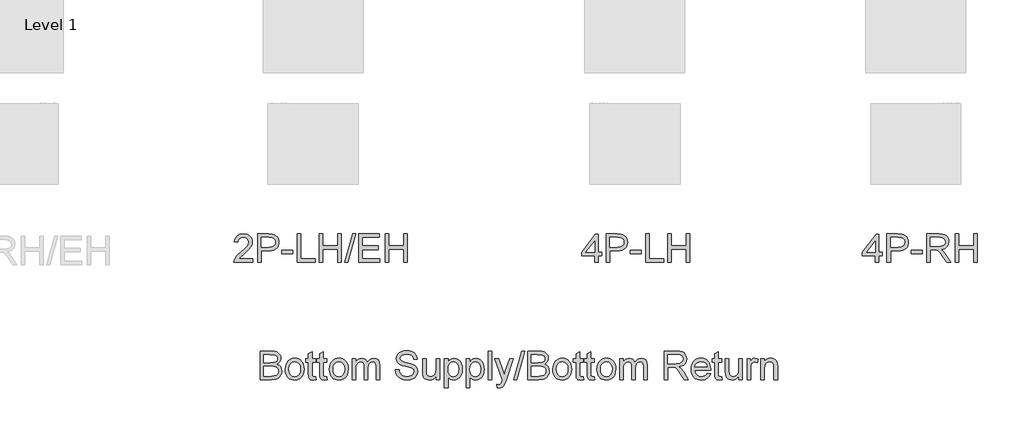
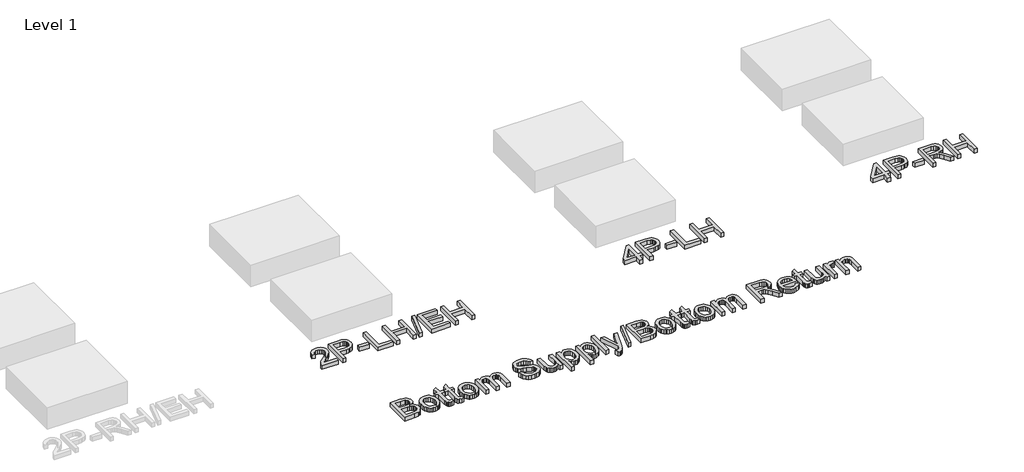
# One storey, part 3 of 3: 4 proxies.
"""IFC4 building model written with IfcOpenShell, lengths in millimetres."""

from ifc_helpers import new_model, si_unit, origin, origin_with_axes, place, context, project, spatial, polyline, outline, extrude, element, save

model = new_model("IFC4")

# Units and contexts
model_context = context("Model", 3, world=origin())
ifc_project = project(units=[si_unit("LENGTHUNIT", "METRE", prefix="MILLI")], contexts=[model_context])

# Site, building, storey
site = spatial("IfcSite", under=ifc_project)
building = spatial("IfcBuilding", under=site)
storey = spatial("IfcBuildingStorey", under=building, Name="Level 1", Elevation=0.0)

# Proxies
placement = place(None, origin())
element("IfcBuildingElementProxy", 1, Name="24\" Arial", ObjectType="24\" Arial", at=placement, inside=storey, context=model_context, shape_type="SweptSolid", body=[
    extrude(outline(polyline([(5067.5422852, -4575.3069819), (5067.5422852, -4613.3778686), (4867.6701297, -4613.3778686), (4871.7597758, -4587.1297768), (4881.1473723, -4566.616484), (4894.8848652, -4546.7166382), (4914.7568271, -4525.8873273), (4942.5478308, -4502.5856396), (4983.6301842, -4466.0948433), (5008.2795962, -4439.1589474), (5020.6043023, -4417.2979304), (5024.7125376, -4396.031771), (5020.8366685, -4376.9684436), (5009.2090613, -4361.1210652), (4991.3354491, -4350.4415123), (4968.7215655, -4346.8816613), (4944.9737345, -4350.3578604), (4926.5238541, -4360.7864578), (4914.6174073, -4377.3495243), (4910.4998773, -4399.2291306), (4872.4289906, -4394.4702698), (4875.7030311, -4374.8167321), (4881.6585781, -4357.6448661), (4890.2956317, -4342.9546716), (4901.6141918, -4330.7461488), (4915.3540083, -4321.1494225), (4931.254831, -4314.2946181), (4969.5394947, -4308.8107745), (4989.9435753, -4310.3350972), (5008.1029979, -4314.908065), (5024.0177625, -4322.5296781), (5037.6878691, -4333.1999364), (5048.6671745, -4346.1287946), (5056.5095355, -4360.5262076), (5061.2149522, -4376.3921753), (5062.7834244, -4393.7266977), (5061.091798, -4411.9349173), (5056.0169191, -4429.8271187), (5047.0104032, -4448.0260436), (5033.5238659, -4467.1544334), (5012.0253402, -4489.9913887), (4978.9828592, -4519.3160097), (4935.186468, -4555.9369311), (4918.0099546, -4575.3069819), (5067.5422852, -4575.3069819)])), origin_with_axes(), (0.0, 0.0, 1.0), 50.8),
    extrude(outline(polyline([(5119.8897545, -4613.3778686), (5119.8897545, -4308.8107745), (5232.7639852, -4308.8107745), (5278.270592, -4311.7107054), (5298.5608131, -4317.1294864), (5315.2632993, -4325.9501093), (5328.712658, -4338.5722441), (5339.2434966, -4355.3955608), (5346.0471804, -4375.2396387), (5348.315075, -4396.9240574), (5346.7837814, -4415.620246), (5342.1899006, -4432.819996), (5334.5334326, -4448.5233073), (5323.8143774, -4462.73018), (5309.0986227, -4474.5065017), (5289.452056, -4482.91816), (5264.8746775, -4487.965155), (5235.3664872, -4489.6474866), (5157.9606413, -4489.6474866), (5157.9606413, -4613.3778686), (5119.8897545, -4613.3778686)]), holes=[polyline([(5157.9606413, -4451.5765999), (5237.5972032, -4451.5765999), (5271.3553723, -4448.0818115), (5293.6625325, -4437.5974462), (5306.0987743, -4420.7741295), (5310.2441883, -4398.262487), (5307.7996953, -4381.1603308), (5300.4662164, -4366.7350339), (5289.1546272, -4355.8788826), (5274.7758036, -4349.4841633), (5236.7049168, -4346.8816613), (5157.9606413, -4346.8816613), (5157.9606413, -4451.5765999)])]), origin_with_axes(), (0.0, 0.0, 1.0), 50.8),
    extrude(outline(polyline([(5376.8682401, -4522.9595126), (5376.8682401, -4484.8886258), (5495.8397612, -4484.8886258), (5495.8397612, -4522.9595126), (5376.8682401, -4522.9595126)])), origin_with_axes(), (0.0, 0.0, 1.0), 50.8),
    extrude(outline(polyline([(5543.4283697, -4613.3778686), (5543.4283697, -4308.8107745), (5581.4992564, -4308.8107745), (5581.4992564, -4575.3069819), (5733.7828035, -4575.3069819), (5733.7828035, -4613.3778686), (5543.4283697, -4613.3778686)])), origin_with_axes(), (0.0, 0.0, 1.0), 50.8),
    extrude(outline(polyline([(5776.6125511, -4613.3778686), (5776.6125511, -4308.8107745), (5814.6834378, -4308.8107745), (5814.6834378, -4432.5411565), (5976.4847066, -4432.5411565), (5976.4847066, -4308.8107745), (6014.5555933, -4308.8107745), (6014.5555933, -4613.3778686), (5976.4847066, -4613.3778686), (5976.4847066, -4470.6120433), (5814.6834378, -4470.6120433), (5814.6834378, -4613.3778686), (5776.6125511, -4613.3778686)])), origin_with_axes(), (0.0, 0.0, 1.0), 50.8),
    extrude(outline(polyline([(6047.8676192, -4613.3778686), (6133.5271144, -4308.8107745), (6167.8801412, -4308.8107745), (6082.220646, -4613.3778686), (6047.8676192, -4613.3778686)])), origin_with_axes(), (0.0, 0.0, 1.0), 50.8),
    extrude(outline(polyline([(6200.1511663, -4613.3778686), (6200.1511663, -4308.8107745), (6419.0587651, -4308.8107745), (6419.0587651, -4346.8816613), (6238.222053, -4346.8816613), (6238.222053, -4437.3000174), (6409.5410434, -4437.3000174), (6409.5410434, -4475.3709041), (6238.222053, -4475.3709041), (6238.222053, -4575.3069819), (6423.817626, -4575.3069819), (6423.817626, -4613.3778686), (6200.1511663, -4613.3778686)])), origin_with_axes(), (0.0, 0.0, 1.0), 50.8),
    extrude(outline(polyline([(6480.9239561, -4613.3778686), (6480.9239561, -4308.8107745), (6518.9948429, -4308.8107745), (6518.9948429, -4432.5411565), (6680.7961116, -4432.5411565), (6680.7961116, -4308.8107745), (6718.8669984, -4308.8107745), (6718.8669984, -4613.3778686), (6680.7961116, -4613.3778686), (6680.7961116, -4470.6120433), (6518.9948429, -4470.6120433), (6518.9948429, -4613.3778686), (6480.9239561, -4613.3778686)])), origin_with_axes(), (0.0, 0.0, 1.0), 50.8),
])
element("IfcBuildingElementProxy", 2, Name="24\" Arial", ObjectType="24\" Arial", at=placement, inside=storey, context=model_context, shape_type="SweptSolid", body=[
    extrude(outline(polyline([(8716.6122383, -4613.3778686), (8716.6122383, -4541.9949559), (8578.6052738, -4541.9949559), (8578.6052738, -4503.9240692), (8726.12996, -4313.5696354), (8754.6831251, -4313.5696354), (8754.6831251, -4503.9240692), (8792.7540119, -4503.9240692), (8792.7540119, -4541.9949559), (8754.6831251, -4541.9949559), (8754.6831251, -4613.3778686), (8716.6122383, -4613.3778686)]), holes=[polyline([(8716.6122383, -4503.9240692), (8716.6122383, -4386.2909777), (8625.4503103, -4503.9240692), (8716.6122383, -4503.9240692)])]), origin_with_axes(), (0.0, 0.0, 1.0), 50.8),
    extrude(outline(polyline([(8840.3426203, -4613.3778686), (8840.3426203, -4308.8107745), (8953.216851, -4308.8107745), (8998.7234578, -4311.7107054), (9019.0136789, -4317.1294864), (9035.7161651, -4325.9501093), (9049.1655238, -4338.5722441), (9059.6963624, -4355.3955608), (9066.5000462, -4375.2396387), (9068.7679409, -4396.9240574), (9067.2366473, -4415.620246), (9062.6427664, -4432.819996), (9054.9862984, -4448.5233073), (9044.2672432, -4462.73018), (9029.5514885, -4474.5065017), (9009.9049219, -4482.91816), (8985.3275434, -4487.965155), (8955.819353, -4489.6474866), (8878.4135071, -4489.6474866), (8878.4135071, -4613.3778686), (8840.3426203, -4613.3778686)]), holes=[polyline([(8878.4135071, -4451.5765999), (8958.050069, -4451.5765999), (8991.8082381, -4448.0818115), (9014.1153983, -4437.5974462), (9026.5516402, -4420.7741295), (9030.6970541, -4398.262487), (9028.2525611, -4381.1603308), (9020.9190822, -4366.7350339), (9009.6074931, -4355.8788826), (8995.2286694, -4349.4841633), (8957.1577826, -4346.8816613), (8878.4135071, -4346.8816613), (8878.4135071, -4451.5765999)])]), origin_with_axes(), (0.0, 0.0, 1.0), 50.8),
    extrude(outline(polyline([(9097.3211059, -4522.9595126), (9097.3211059, -4484.8886258), (9216.292627, -4484.8886258), (9216.292627, -4522.9595126), (9097.3211059, -4522.9595126)])), origin_with_axes(), (0.0, 0.0, 1.0), 50.8),
    extrude(outline(polyline([(9263.8812355, -4613.3778686), (9263.8812355, -4308.8107745), (9301.9521223, -4308.8107745), (9301.9521223, -4575.3069819), (9454.2356693, -4575.3069819), (9454.2356693, -4613.3778686), (9263.8812355, -4613.3778686)])), origin_with_axes(), (0.0, 0.0, 1.0), 50.8),
    extrude(outline(polyline([(9497.0654169, -4613.3778686), (9497.0654169, -4308.8107745), (9535.1363036, -4308.8107745), (9535.1363036, -4432.5411565), (9696.9375724, -4432.5411565), (9696.9375724, -4308.8107745), (9735.0084591, -4308.8107745), (9735.0084591, -4613.3778686), (9696.9375724, -4613.3778686), (9696.9375724, -4470.6120433), (9535.1363036, -4470.6120433), (9535.1363036, -4613.3778686), (9497.0654169, -4613.3778686)])), origin_with_axes(), (0.0, 0.0, 1.0), 50.8),
])
element("IfcBuildingElementProxy", 3, Name="24\" Arial", ObjectType="24\" Arial", at=placement, inside=storey, context=model_context, shape_type="SweptSolid", body=[
    extrude(outline(polyline([(11713.8122383, -4613.3778686), (11713.8122383, -4541.9949559), (11575.8052738, -4541.9949559), (11575.8052738, -4503.9240692), (11723.32996, -4313.5696354), (11751.8831251, -4313.5696354), (11751.8831251, -4503.9240692), (11789.9540119, -4503.9240692), (11789.9540119, -4541.9949559), (11751.8831251, -4541.9949559), (11751.8831251, -4613.3778686), (11713.8122383, -4613.3778686)]), holes=[polyline([(11713.8122383, -4503.9240692), (11713.8122383, -4386.2909777), (11622.6503103, -4503.9240692), (11713.8122383, -4503.9240692)])]), origin_with_axes(), (0.0, 0.0, 1.0), 50.8),
    extrude(outline(polyline([(11837.5426203, -4613.3778686), (11837.5426203, -4308.8107745), (11950.416851, -4308.8107745), (11995.9234578, -4311.7107054), (12016.2136789, -4317.1294864), (12032.9161651, -4325.9501093), (12046.3655238, -4338.5722441), (12056.8963624, -4355.3955608), (12063.7000462, -4375.2396387), (12065.9679409, -4396.9240574), (12064.4366473, -4415.620246), (12059.8427664, -4432.819996), (12052.1862984, -4448.5233073), (12041.4672432, -4462.73018), (12026.7514885, -4474.5065017), (12007.1049219, -4482.91816), (11982.5275434, -4487.965155), (11953.019353, -4489.6474866), (11875.6135071, -4489.6474866), (11875.6135071, -4613.3778686), (11837.5426203, -4613.3778686)]), holes=[polyline([(11875.6135071, -4451.5765999), (11955.250069, -4451.5765999), (11989.0082381, -4448.0818115), (12011.3153983, -4437.5974462), (12023.7516402, -4420.7741295), (12027.8970541, -4398.262487), (12025.4525611, -4381.1603308), (12018.1190822, -4366.7350339), (12006.8074931, -4355.8788826), (11992.4286694, -4349.4841633), (11954.3577826, -4346.8816613), (11875.6135071, -4346.8816613), (11875.6135071, -4451.5765999)])]), origin_with_axes(), (0.0, 0.0, 1.0), 50.8),
    extrude(outline(polyline([(12094.5211059, -4522.9595126), (12094.5211059, -4484.8886258), (12213.492627, -4484.8886258), (12213.492627, -4522.9595126), (12094.5211059, -4522.9595126)])), origin_with_axes(), (0.0, 0.0, 1.0), 50.8),
    extrude(outline(polyline([(12261.0812355, -4613.3778686), (12261.0812355, -4308.8107745), (12392.3216947, -4308.8107745), (12427.5948918, -4310.8648922), (12453.2574207, -4317.0272452), (12472.0140246, -4328.4038969), (12486.5694466, -4346.1009107), (12495.91057, -4368.0455796), (12499.0242777, -4392.1651965), (12493.8657469, -4422.168327), (12478.3901545, -4447.0408106), (12466.6672771, -4457.1766266), (12452.132768, -4465.2769141), (12414.6288549, -4475.3709041), (12436.2668003, -4491.6551311), (12467.1250386, -4530.8413758), (12517.9110067, -4613.3778686), (12473.6684723, -4613.3778686), (12434.0360843, -4550.2486052), (12405.4085621, -4508.4598584), (12385.2949393, -4488.7180216), (12367.1889609, -4481.4681946), (12345.1048723, -4480.129765), (12299.1521223, -4480.129765), (12299.1521223, -4613.3778686), (12261.0812355, -4613.3778686)]), holes=[polyline([(12299.1521223, -4442.0588782), (12384.3654743, -4442.0588782), (12408.8382879, -4440.7111539), (12427.8272581, -4436.6679811), (12442.1224299, -4429.659815), (12452.5138487, -4419.4171106), (12458.8435054, -4407.027342), (12460.953391, -4393.5779833), (12456.9288075, -4375.0072725), (12444.855057, -4360.0428858), (12424.0815141, -4350.1719674), (12393.9575531, -4346.8816613), (12299.1521223, -4346.8816613), (12299.1521223, -4442.0588782)])]), origin_with_axes(), (0.0, 0.0, 1.0), 50.8),
    extrude(outline(polyline([(12565.6483296, -4613.3778686), (12565.6483296, -4308.8107745), (12603.7192163, -4308.8107745), (12603.7192163, -4432.5411565), (12765.520485, -4432.5411565), (12765.520485, -4308.8107745), (12803.5913718, -4308.8107745), (12803.5913718, -4613.3778686), (12765.520485, -4613.3778686), (12765.520485, -4470.6120433), (12603.7192163, -4470.6120433), (12603.7192163, -4613.3778686), (12565.6483296, -4613.3778686)])), origin_with_axes(), (0.0, 0.0, 1.0), 50.8),
])
element("IfcBuildingElementProxy", 4, Name="24\" Arial", ObjectType="24\" Arial", at=placement, inside=storey, context=model_context, shape_type="SweptSolid", body=[
    extrude(outline(polyline([(5149.6024205, -5864.2569416), (5149.6024205, -5559.6898476), (5265.8227252, -5559.6898476), (5297.7870269, -5561.9298582), (5322.7431624, -5568.6498903), (5341.8715523, -5580.0172473), (5356.3526171, -5596.1992331), (5365.4706688, -5615.2346765), (5368.5100194, -5635.1624063), (5365.9539906, -5653.5007509), (5358.2859043, -5670.7423268), (5345.4499925, -5685.8275439), (5327.3904874, -5697.6968121), (5348.9633703, -5708.961928), (5364.9036952, -5726.1012627), (5374.7467296, -5747.980869), (5378.0277411, -5773.4667996), (5375.7877304, -5794.705075), (5369.0676984, -5814.4004386), (5359.038771, -5831.149398), (5346.872074, -5843.5484612), (5331.9727499, -5852.5270932), (5313.7459411, -5859.014759), (5264.9304388, -5864.2569416), (5149.6024205, -5864.2569416)]), holes=[polyline([(5187.6733073, -5683.4202295), (5257.19729, -5683.4202295), (5297.7963215, -5680.1485127), (5312.0078415, -5674.5066601), (5322.222662, -5666.0578232), (5328.385015, -5654.932127), (5330.4391327, -5641.2596967), (5328.5244347, -5627.9869364), (5322.780341, -5616.4243917), (5313.4671016, -5607.3992865), (5300.8449668, -5601.7388446), (5251.9179287, -5597.7607343), (5187.6733073, -5597.7607343), (5187.6733073, -5683.4202295)]), polyline([(5187.6733073, -5826.1860549), (5265.748368, -5826.1860549), (5294.0041043, -5824.6989109), (5317.9099443, -5816.408083), (5333.7480281, -5799.4918198), (5338.4046478, -5787.5388998), (5339.9568543, -5773.8385856), (5338.1351029, -5757.9261446), (5332.6698487, -5744.2444197), (5323.124243, -5733.5462775), (5309.0614375, -5726.5845845), (5289.1430023, -5722.7644834), (5262.030508, -5721.4911163), (5187.6733073, -5721.4911163), (5187.6733073, -5826.1860549)])]), origin_with_axes(), (0.0, 0.0, 1.0), 50.8),
    extrude(outline(polyline([(5416.0986279, -5752.4237118), (5418.1573929, -5723.4569348), (5424.3336878, -5698.496152), (5434.6275128, -5677.5413634), (5449.0388678, -5660.5925689), (5463.5478166, -5649.7596542), (5479.5624987, -5642.0218581), (5497.0829141, -5637.3791803), (5516.1090628, -5635.8316211), (5537.1126483, -5637.7161114), (5556.1039421, -5643.3695823), (5573.0829442, -5652.7920338), (5588.0496545, -5665.983466), (5600.2651484, -5682.4977355), (5608.9905011, -5701.8886993), (5614.2257128, -5724.1563572), (5615.9707833, -5749.3007094), (5612.8849595, -5787.7619714), (5603.627488, -5817.0401192), (5588.4679137, -5838.9661988), (5567.6757815, -5855.3712562), (5542.9798962, -5865.6046659), (5516.1090628, -5869.0158025), (5494.7987538, -5867.1382832), (5475.6308617, -5861.5057252), (5458.6053864, -5852.1181286), (5443.7223279, -5838.9754934), (5431.6369591, -5822.3008911), (5423.0045529, -5802.3173935), (5417.8251091, -5779.0250003), (5416.0986279, -5752.4237118)]), holes=[polyline([(5454.1695146, -5752.3493546), (5458.5751788, -5786.8046225), (5471.7921712, -5811.3517933), (5491.6827224, -5826.0466351), (5516.1090628, -5830.9449157), (5540.4238674, -5826.0187512), (5560.27724, -5811.2402575), (5573.4942324, -5786.3677739), (5577.8998966, -5751.1596394), (5573.4663485, -5717.7081937), (5560.1657042, -5693.4956302), (5540.2844477, -5678.8007884), (5516.1090628, -5673.9025079), (5491.6827224, -5678.7821991), (5471.7921712, -5693.421273), (5458.5751788, -5717.912676), (5454.1695146, -5752.3493546)])]), origin_with_axes(), (0.0, 0.0, 1.0), 50.8),
    extrude(outline(polyline([(5739.7011653, -5832.5064169), (5744.4600262, -5865.3722997), (5715.9812183, -5869.0158025), (5697.7079362, -5867.435712), (5684.0819792, -5862.6954404), (5674.4527217, -5855.3898455), (5668.1695382, -5846.1137847), (5664.7119284, -5830.1827544), (5663.5593918, -5802.9122511), (5663.5593918, -5678.6613687), (5635.0062267, -5678.6613687), (5635.0062267, -5640.5904819), (5663.5593918, -5640.5904819), (5663.5593918, -5586.2353682), (5701.6302785, -5563.8538508), (5701.6302785, -5640.5904819), (5739.7011653, -5640.5904819), (5739.7011653, -5678.6613687), (5701.6302785, -5678.6613687), (5701.6302785, -5801.7968931), (5703.637923, -5821.427194), (5710.144178, -5828.3795923), (5723.1195096, -5830.9449157), (5739.7011653, -5832.5064169)])), origin_with_axes(), (0.0, 0.0, 1.0), 50.8),
    extrude(outline(polyline([(5858.6726864, -5832.5064169), (5863.4315473, -5865.3722997), (5834.9527394, -5869.0158025), (5816.6794573, -5867.435712), (5803.0535003, -5862.6954404), (5793.4242428, -5855.3898455), (5787.1410594, -5846.1137847), (5783.6834495, -5830.1827544), (5782.5309129, -5802.9122511), (5782.5309129, -5678.6613687), (5753.9777478, -5678.6613687), (5753.9777478, -5640.5904819), (5782.5309129, -5640.5904819), (5782.5309129, -5586.2353682), (5820.6017997, -5563.8538508), (5820.6017997, -5640.5904819), (5858.6726864, -5640.5904819), (5858.6726864, -5678.6613687), (5820.6017997, -5678.6613687), (5820.6017997, -5801.7968931), (5822.6094441, -5821.427194), (5829.1156991, -5828.3795923), (5842.0910307, -5830.9449157), (5858.6726864, -5832.5064169)])), origin_with_axes(), (0.0, 0.0, 1.0), 50.8),
    extrude(outline(polyline([(5887.2258515, -5752.4237118), (5889.2846165, -5723.4569348), (5895.4609115, -5698.496152), (5905.7547364, -5677.5413634), (5920.1660914, -5660.5925689), (5934.6750402, -5649.7596542), (5950.6897223, -5642.0218581), (5968.2101377, -5637.3791803), (5987.2362864, -5635.8316211), (6008.239872, -5637.7161114), (6027.2311658, -5643.3695823), (6044.2101678, -5652.7920338), (6059.1768781, -5665.983466), (6071.392372, -5682.4977355), (6080.1177248, -5701.8886993), (6085.3529364, -5724.1563572), (6087.098007, -5749.3007094), (6084.0121831, -5787.7619714), (6074.7547117, -5817.0401192), (6059.5951374, -5838.9661988), (6038.8030051, -5855.3712562), (6014.1071198, -5865.6046659), (5987.2362864, -5869.0158025), (5965.9259775, -5867.1382832), (5946.7580853, -5861.5057252), (5929.73261, -5852.1181286), (5914.8495516, -5838.9754934), (5902.7641828, -5822.3008911), (5894.1317765, -5802.3173935), (5888.9523328, -5779.0250003), (5887.2258515, -5752.4237118)]), holes=[polyline([(5925.2967383, -5752.3493546), (5929.7024024, -5786.8046225), (5942.9193948, -5811.3517933), (5962.809946, -5826.0466351), (5987.2362864, -5830.9449157), (6011.5510911, -5826.0187512), (6031.4044637, -5811.2402575), (6044.6214561, -5786.3677739), (6049.0271202, -5751.1596394), (6044.5935721, -5717.7081937), (6031.2929279, -5693.4956302), (6011.4116713, -5678.8007884), (5987.2362864, -5673.9025079), (5962.809946, -5678.7821991), (5942.9193948, -5693.421273), (5929.7024024, -5717.912676), (5925.2967383, -5752.3493546)])]), origin_with_axes(), (0.0, 0.0, 1.0), 50.8),
    extrude(outline(polyline([(6129.9277546, -5864.2569416), (6129.9277546, -5640.5904819), (6167.9986413, -5640.5904819), (6167.9986413, -5677.3972963), (6179.4496502, -5660.4903278), (6194.172376, -5647.2454514), (6211.6649075, -5638.6850787), (6231.4253335, -5635.8316211), (6252.5985464, -5638.7408466), (6269.5705775, -5647.468523), (6282.2484802, -5661.4383821), (6290.5393081, -5680.0741555), (6304.4162207, -5660.7180467), (6320.2450098, -5646.8922547), (6338.0256754, -5638.5967795), (6357.7582175, -5635.8316211), (6386.3764451, -5640.4324729), (6407.5403634, -5654.2350283), (6420.6179361, -5677.6110732), (6424.977127, -5710.9323938), (6424.977127, -5864.2569416), (6386.9062402, -5864.2569416), (6386.9062402, -5727.290978), (6383.3742732, -5695.5032747), (6378.41093, -5686.7384196), (6370.5848346, -5679.8510839), (6360.5187286, -5675.3896519), (6348.8353534, -5673.9025079), (6328.2105249, -5677.7133144), (6311.3965029, -5689.145734), (6300.2150388, -5708.9805173), (6296.4878842, -5737.9984149), (6296.4878842, -5864.2569416), (6258.4169974, -5864.2569416), (6258.4169974, -5723.0526175), (6256.2141653, -5701.5262079), (6249.6056691, -5686.171446), (6237.9780618, -5676.9697424), (6220.7178966, -5673.9025079), (6206.0509388, -5675.9473309), (6192.5365176, -5682.0817999), (6181.3829375, -5692.1572006), (6173.798503, -5706.0248186), (6169.4486068, -5725.2647442), (6167.9986413, -5751.4570682), (6167.9986413, -5864.2569416), (6129.9277546, -5864.2569416)])), origin_with_axes(), (0.0, 0.0, 1.0), 50.8),
    extrude(outline(polyline([(6591.5372565, -5759.5620031), (6629.6081433, -5759.5620031), (6633.9766288, -5780.6887427), (6641.8770814, -5797.6700684), (6654.2017874, -5811.147311), (6671.8430333, -5821.7618014), (6693.4066215, -5828.6491372), (6717.4983545, -5830.9449157), (6738.708746, -5829.2068162), (6757.2794569, -5823.9925175), (6772.3274954, -5815.7388682), (6782.9698697, -5804.8827169), (6789.2995264, -5792.4185911), (6791.409412, -5779.3410184), (6789.8293215, -5766.5980532), (6785.08905, -5755.5838928), (6775.4597925, -5746.1870016), (6759.2127441, -5738.2958437), (6703.779451, -5723.7590109), (6667.3908959, -5714.1390481), (6644.1077974, -5704.9838177), (6625.1560059, -5692.1757899), (6611.7252365, -5676.6537243), (6603.7225428, -5658.7522282), (6601.0549782, -5638.8059091), (6604.354579, -5616.5080436), (6614.2533813, -5595.7159113), (6630.491135, -5578.0932547), (6652.8075899, -5565.3038162), (6679.5947715, -5557.5241941), (6709.2447052, -5554.9309867), (6741.3670159, -5557.6450246), (6769.4740378, -5565.787138), (6792.5619486, -5579.1900235), (6809.6269262, -5597.6863771), (6820.4273096, -5620.1236624), (6824.7214379, -5645.3493428), (6786.6505512, -5645.3493428), (6779.6609743, -5622.633218), (6765.086963, -5606.2374552), (6742.3150702, -5596.3107689), (6710.7318493, -5593.0018735), (6678.4050562, -5596.2735903), (6656.2280211, -5606.0887408), (6643.401404, -5620.532627), (6639.125865, -5637.6905511), (6642.1559209, -5652.3203303), (6651.2460887, -5664.0873574), (6672.7353197, -5674.6089013), (6713.4087085, -5685.3535168), (6755.3833483, -5695.5590426), (6780.7763323, -5704.4633173), (6802.4793403, -5718.2751674), (6817.6203253, -5735.3215556), (6826.5153054, -5755.4165891), (6829.4802988, -5778.3743748), (6826.0691622, -5801.8433663), (6815.8357524, -5823.9181603), (6799.1983288, -5842.916425), (6776.5751505, -5857.155829), (6749.3697097, -5866.0508091), (6718.9854985, -5869.0158025), (6681.6860677, -5865.8184429), (6650.9858385, -5856.226364), (6626.5316141, -5840.2023872), (6607.9701979, -5817.709334), (6596.0544565, -5790.3087055), (6591.5372565, -5759.5620031)])), origin_with_axes(), (0.0, 0.0, 1.0), 50.8),
    extrude(outline(polyline([(7024.5935934, -5864.2569416), (7024.5935934, -5825.8142689), (7010.818922, -5844.7149398), (6994.7763559, -5858.2154191), (6976.4658953, -5866.3157066), (6955.88754, -5869.0158025), (6937.344713, -5867.1196939), (6920.0845478, -5861.431368), (6905.603483, -5852.8802899), (6895.3979572, -5842.3959246), (6888.5292108, -5829.662254), (6884.0584841, -5814.36326), (6881.8277681, -5778.9692324), (6881.8277681, -5640.5904819), (6919.8986548, -5640.5904819), (6919.8986548, -5761.0491471), (6922.203728, -5799.8636058), (6927.7526341, -5812.8110534), (6937.2610612, -5822.6540879), (6950.096973, -5828.8722088), (6965.6283333, -5830.9449157), (6982.05198, -5828.8257355), (6997.4160366, -5822.4681949), (7010.0846446, -5812.4578567), (7018.4219457, -5799.380284), (7023.0506815, -5781.4694933), (7024.5935934, -5756.959501), (7024.5935934, -5640.5904819), (7062.6644802, -5640.5904819), (7062.6644802, -5864.2569416), (7024.5935934, -5864.2569416)])), origin_with_axes(), (0.0, 0.0, 1.0), 50.8),
    extrude(outline(polyline([(7115.0119495, -5949.9164369), (7115.0119495, -5640.5904819), (7153.0828362, -5640.5904819), (7153.0828362, -5677.9177967), (7165.5004887, -5659.5050949), (7179.4052853, -5646.353165), (7195.615155, -5638.4620071), (7214.9480272, -5635.8316211), (7240.6942079, -5639.5123025), (7263.2058505, -5650.5543468), (7281.5349004, -5668.2885392), (7294.7333036, -5692.0456648), (7302.7081133, -5720.0969188), (7305.3663833, -5750.7134962), (7302.3642113, -5783.2726554), (7293.3576953, -5812.3927942), (7278.6349696, -5836.596063), (7258.4841682, -5854.4046126), (7235.0151767, -5865.363005), (7210.3378808, -5869.0158025), (7192.8360546, -5866.5713095), (7177.2117478, -5859.2378306), (7163.8367464, -5848.1679023), (7153.0828362, -5834.5140614), (7153.0828362, -5949.9164369), (7115.0119495, -5949.9164369)]), holes=[polyline([(7153.0828362, -5754.2082846), (7157.2003662, -5788.3382397), (7169.5529562, -5812.2069012), (7187.779765, -5826.2604121), (7209.5199515, -5830.9449157), (7231.6133348, -5826.0931084), (7250.3048761, -5811.5376863), (7263.0478414, -5786.7953278), (7267.2954965, -5751.382711), (7263.1500826, -5717.4386489), (7250.7138407, -5693.23538), (7232.5149159, -5678.7357259), (7211.0814528, -5673.9025079), (7189.5643378, -5679.0424494), (7170.6683142, -5694.4622738), (7157.4792057, -5719.6786595), (7153.0828362, -5754.2082846)])]), origin_with_axes(), (0.0, 0.0, 1.0), 50.8),
    extrude(outline(polyline([(7348.1961309, -5949.9164369), (7348.1961309, -5640.5904819), (7386.2670176, -5640.5904819), (7386.2670176, -5677.9177967), (7398.6846701, -5659.5050949), (7412.5894667, -5646.353165), (7428.7993364, -5638.4620071), (7448.1322086, -5635.8316211), (7473.8783893, -5639.5123025), (7496.3900319, -5650.5543468), (7514.7190818, -5668.2885392), (7527.9174849, -5692.0456648), (7535.8922947, -5720.0969188), (7538.5505646, -5750.7134962), (7535.5483927, -5783.2726554), (7526.5418767, -5812.3927942), (7511.819151, -5836.596063), (7491.6683496, -5854.4046126), (7468.1993581, -5865.363005), (7443.5220622, -5869.0158025), (7426.020236, -5866.5713095), (7410.3959292, -5859.2378306), (7397.0209278, -5848.1679023), (7386.2670176, -5834.5140614), (7386.2670176, -5949.9164369), (7348.1961309, -5949.9164369)]), holes=[polyline([(7386.2670176, -5754.2082846), (7390.3845476, -5788.3382397), (7402.7371376, -5812.2069012), (7420.9639464, -5826.2604121), (7442.7041329, -5830.9449157), (7464.7975162, -5826.0931084), (7483.4890575, -5811.5376863), (7496.2320228, -5786.7953278), (7500.4796779, -5751.382711), (7496.334264, -5717.4386489), (7483.8980221, -5693.23538), (7465.6990973, -5678.7357259), (7444.2656342, -5673.9025079), (7422.7485192, -5679.0424494), (7403.8524956, -5694.4622738), (7390.6633871, -5719.6786595), (7386.2670176, -5754.2082846)])]), origin_with_axes(), (0.0, 0.0, 1.0), 50.8),
    extrude(outline(polyline([(7581.3803123, -5864.2569416), (7581.3803123, -5559.6898476), (7619.451199, -5559.6898476), (7619.451199, -5864.2569416), (7581.3803123, -5864.2569416)])), origin_with_axes(), (0.0, 0.0, 1.0), 50.8),
    extrude(outline(polyline([(7676.5575291, -5949.9164369), (7671.7986683, -5913.2583369), (7691.1315405, -5916.6044109), (7709.2003403, -5912.4032291), (7720.2795632, -5900.69197), (7730.6895713, -5872.6593053), (7733.6638593, -5863.4390124), (7652.7632249, -5640.5904819), (7692.9161133, -5640.5904819), (7735.8202181, -5764.7670071), (7750.7660154, -5814.4376172), (7765.7118128, -5770.5668688), (7809.8056328, -5640.5904819), (7849.6610924, -5640.5904819), (7771.8091032, -5869.6106601), (7751.5839447, -5919.2812702), (7741.2297045, -5935.1379432), (7729.499856, -5946.1242196), (7715.873899, -5952.5375282), (7699.831333, -5954.6752977), (7676.5575291, -5949.9164369)])), origin_with_axes(), (0.0, 0.0, 1.0), 50.8),
    extrude(outline(polyline([(7852.6353804, -5864.2569416), (7938.2948756, -5559.6898476), (7972.6479023, -5559.6898476), (7886.9884071, -5864.2569416), (7852.6353804, -5864.2569416)])), origin_with_axes(), (0.0, 0.0, 1.0), 50.8),
    extrude(outline(polyline([(8004.9189274, -5864.2569416), (8004.9189274, -5559.6898476), (8121.1392321, -5559.6898476), (8153.1035338, -5561.9298582), (8178.0596693, -5568.6498903), (8197.1880592, -5580.0172473), (8211.669124, -5596.1992331), (8220.7871757, -5615.2346765), (8223.8265263, -5635.1624063), (8221.2704975, -5653.5007509), (8213.6024112, -5670.7423268), (8200.7664994, -5685.8275439), (8182.7069943, -5697.6968121), (8204.2798772, -5708.961928), (8220.2202021, -5726.1012627), (8230.0632365, -5747.980869), (8233.344248, -5773.4667996), (8231.1042373, -5794.705075), (8224.3842053, -5814.4004386), (8214.3552779, -5831.149398), (8202.1885809, -5843.5484612), (8187.2892568, -5852.5270932), (8169.062448, -5859.014759), (8120.2469457, -5864.2569416), (8004.9189274, -5864.2569416)]), holes=[polyline([(8042.9898142, -5683.4202295), (8112.5137969, -5683.4202295), (8153.1128284, -5680.1485127), (8167.3243484, -5674.5066601), (8177.5391689, -5666.0578232), (8183.7015219, -5654.932127), (8185.7556395, -5641.2596967), (8183.8409416, -5627.9869364), (8178.0968479, -5616.4243917), (8168.7836085, -5607.3992865), (8156.1614737, -5601.7388446), (8107.2344356, -5597.7607343), (8042.9898142, -5597.7607343), (8042.9898142, -5683.4202295)]), polyline([(8042.9898142, -5826.1860549), (8121.0648749, -5826.1860549), (8149.3206112, -5824.6989109), (8173.2264512, -5816.408083), (8189.064535, -5799.4918198), (8193.7211547, -5787.5388998), (8195.2733612, -5773.8385856), (8193.4516098, -5757.9261446), (8187.9863556, -5744.2444197), (8178.4407499, -5733.5462775), (8164.3779443, -5726.5845845), (8144.4595092, -5722.7644834), (8117.3470149, -5721.4911163), (8042.9898142, -5721.4911163), (8042.9898142, -5826.1860549)])]), origin_with_axes(), (0.0, 0.0, 1.0), 50.8),
    extrude(outline(polyline([(8271.4151348, -5752.4237118), (8273.4738997, -5723.4569348), (8279.6501947, -5698.496152), (8289.9440197, -5677.5413634), (8304.3553747, -5660.5925689), (8318.8643234, -5649.7596542), (8334.8790055, -5642.0218581), (8352.399421, -5637.3791803), (8371.4255697, -5635.8316211), (8392.4291552, -5637.7161114), (8411.420449, -5643.3695823), (8428.3994511, -5652.7920338), (8443.3661614, -5665.983466), (8455.5816552, -5682.4977355), (8464.307008, -5701.8886993), (8469.5422197, -5724.1563572), (8471.2872902, -5749.3007094), (8468.2014664, -5787.7619714), (8458.9439949, -5817.0401192), (8443.7844206, -5838.9661988), (8422.9922884, -5855.3712562), (8398.2964031, -5865.6046659), (8371.4255697, -5869.0158025), (8350.1152607, -5867.1382832), (8330.9473686, -5861.5057252), (8313.9218933, -5852.1181286), (8299.0388348, -5838.9754934), (8286.953466, -5822.3008911), (8278.3210598, -5802.3173935), (8273.141616, -5779.0250003), (8271.4151348, -5752.4237118)]), holes=[polyline([(8309.4860215, -5752.3493546), (8313.8916857, -5786.8046225), (8327.1086781, -5811.3517933), (8346.9992293, -5826.0466351), (8371.4255697, -5830.9449157), (8395.7403743, -5826.0187512), (8415.5937469, -5811.2402575), (8428.8107393, -5786.3677739), (8433.2164035, -5751.1596394), (8428.7828554, -5717.7081937), (8415.4822111, -5693.4956302), (8395.6009546, -5678.8007884), (8371.4255697, -5673.9025079), (8346.9992293, -5678.7821991), (8327.1086781, -5693.421273), (8313.8916857, -5717.912676), (8309.4860215, -5752.3493546)])]), origin_with_axes(), (0.0, 0.0, 1.0), 50.8),
    extrude(outline(polyline([(8595.0176722, -5832.5064169), (8599.776533, -5865.3722997), (8571.2977252, -5869.0158025), (8553.0244431, -5867.435712), (8539.3984861, -5862.6954404), (8529.7692286, -5855.3898455), (8523.4860451, -5846.1137847), (8520.0284353, -5830.1827544), (8518.8758987, -5802.9122511), (8518.8758987, -5678.6613687), (8490.3227336, -5678.6613687), (8490.3227336, -5640.5904819), (8518.8758987, -5640.5904819), (8518.8758987, -5586.2353682), (8556.9467854, -5563.8538508), (8556.9467854, -5640.5904819), (8595.0176722, -5640.5904819), (8595.0176722, -5678.6613687), (8556.9467854, -5678.6613687), (8556.9467854, -5801.7968931), (8558.9544299, -5821.427194), (8565.4606849, -5828.3795923), (8578.4360164, -5830.9449157), (8595.0176722, -5832.5064169)])), origin_with_axes(), (0.0, 0.0, 1.0), 50.8),
    extrude(outline(polyline([(8713.9891933, -5832.5064169), (8718.7480542, -5865.3722997), (8690.2692463, -5869.0158025), (8671.9959642, -5867.435712), (8658.3700072, -5862.6954404), (8648.7407497, -5855.3898455), (8642.4575662, -5846.1137847), (8638.9999564, -5830.1827544), (8637.8474198, -5802.9122511), (8637.8474198, -5678.6613687), (8609.2942547, -5678.6613687), (8609.2942547, -5640.5904819), (8637.8474198, -5640.5904819), (8637.8474198, -5586.2353682), (8675.9183066, -5563.8538508), (8675.9183066, -5640.5904819), (8713.9891933, -5640.5904819), (8713.9891933, -5678.6613687), (8675.9183066, -5678.6613687), (8675.9183066, -5801.7968931), (8677.925951, -5821.427194), (8684.432206, -5828.3795923), (8697.4075376, -5830.9449157), (8713.9891933, -5832.5064169)])), origin_with_axes(), (0.0, 0.0, 1.0), 50.8),
    extrude(outline(polyline([(8742.5423584, -5752.4237118), (8744.6011234, -5723.4569348), (8750.7774184, -5698.496152), (8761.0712433, -5677.5413634), (8775.4825983, -5660.5925689), (8789.9915471, -5649.7596542), (8806.0062292, -5642.0218581), (8823.5266446, -5637.3791803), (8842.5527933, -5635.8316211), (8863.5563789, -5637.7161114), (8882.5476727, -5643.3695823), (8899.5266747, -5652.7920338), (8914.493385, -5665.983466), (8926.7088789, -5682.4977355), (8935.4342317, -5701.8886993), (8940.6694433, -5724.1563572), (8942.4145139, -5749.3007094), (8939.32869, -5787.7619714), (8930.0712186, -5817.0401192), (8914.9116443, -5838.9661988), (8894.119512, -5855.3712562), (8869.4236267, -5865.6046659), (8842.5527933, -5869.0158025), (8821.2424843, -5867.1382832), (8802.0745922, -5861.5057252), (8785.0491169, -5852.1181286), (8770.1660584, -5838.9754934), (8758.0806897, -5822.3008911), (8749.4482834, -5802.3173935), (8744.2688396, -5779.0250003), (8742.5423584, -5752.4237118)]), holes=[polyline([(8780.6132451, -5752.3493546), (8785.0189093, -5786.8046225), (8798.2359017, -5811.3517933), (8818.1264529, -5826.0466351), (8842.5527933, -5830.9449157), (8866.867598, -5826.0187512), (8886.7209705, -5811.2402575), (8899.937963, -5786.3677739), (8904.3436271, -5751.1596394), (8899.910079, -5717.7081937), (8886.6094347, -5693.4956302), (8866.7281782, -5678.8007884), (8842.5527933, -5673.9025079), (8818.1264529, -5678.7821991), (8798.2359017, -5693.421273), (8785.0189093, -5717.912676), (8780.6132451, -5752.3493546)])]), origin_with_axes(), (0.0, 0.0, 1.0), 50.8),
    extrude(outline(polyline([(8985.2442615, -5864.2569416), (8985.2442615, -5640.5904819), (9023.3151482, -5640.5904819), (9023.3151482, -5677.3972963), (9034.7661571, -5660.4903278), (9049.4888829, -5647.2454514), (9066.9814143, -5638.6850787), (9086.7418404, -5635.8316211), (9107.9150533, -5638.7408466), (9124.8870844, -5647.468523), (9137.5649871, -5661.4383821), (9145.855815, -5680.0741555), (9159.7327276, -5660.7180467), (9175.5615167, -5646.8922547), (9193.3421823, -5638.5967795), (9213.0747244, -5635.8316211), (9241.692952, -5640.4324729), (9262.8568703, -5654.2350283), (9275.934443, -5677.6110732), (9280.2936339, -5710.9323938), (9280.2936339, -5864.2569416), (9242.2227471, -5864.2569416), (9242.2227471, -5727.290978), (9238.6907801, -5695.5032747), (9233.7274369, -5686.7384196), (9225.9013415, -5679.8510839), (9215.8352355, -5675.3896519), (9204.1518603, -5673.9025079), (9183.5270318, -5677.7133144), (9166.7130098, -5689.145734), (9155.5315457, -5708.9805173), (9151.804391, -5737.9984149), (9151.804391, -5864.2569416), (9113.7335043, -5864.2569416), (9113.7335043, -5723.0526175), (9111.5306722, -5701.5262079), (9104.922176, -5686.171446), (9093.2945687, -5676.9697424), (9076.0344035, -5673.9025079), (9061.3674457, -5675.9473309), (9047.8530245, -5682.0817999), (9036.6994444, -5692.1572006), (9029.1150099, -5706.0248186), (9024.7651136, -5725.2647442), (9023.3151482, -5751.4570682), (9023.3151482, -5864.2569416), (8985.2442615, -5864.2569416)])), origin_with_axes(), (0.0, 0.0, 1.0), 50.8),
    extrude(outline(polyline([(9461.130346, -5864.2569416), (9461.130346, -5559.6898476), (9592.3708052, -5559.6898476), (9627.6440023, -5561.7439652), (9653.3065312, -5567.9063183), (9672.063135, -5579.28297), (9686.6185571, -5596.9799837), (9695.9596804, -5618.9246526), (9699.0733882, -5643.0442696), (9693.9148574, -5673.0474), (9678.439265, -5697.9198837), (9666.7163876, -5708.0556996), (9652.1818785, -5716.1559871), (9614.6779654, -5726.2499771), (9636.3159108, -5742.5342041), (9667.1741491, -5781.7204489), (9717.9601172, -5864.2569416), (9673.7175828, -5864.2569416), (9634.0851948, -5801.1276782), (9605.4576725, -5759.3389315), (9585.3440497, -5739.5970947), (9567.2380714, -5732.3472676), (9545.1539827, -5731.008838), (9499.2012327, -5731.008838), (9499.2012327, -5864.2569416), (9461.130346, -5864.2569416)]), holes=[polyline([(9499.2012327, -5692.9379512), (9584.4145847, -5692.9379512), (9608.8873984, -5691.590227), (9627.8763685, -5687.5470542), (9642.1715404, -5680.538888), (9652.5629592, -5670.2961836), (9658.8926159, -5657.9064151), (9661.0025014, -5644.4570564), (9656.9779179, -5625.8863455), (9644.9041675, -5610.9219589), (9624.1306245, -5601.0510405), (9594.0066636, -5597.7607343), (9499.2012327, -5597.7607343), (9499.2012327, -5692.9379512)])]), origin_with_axes(), (0.0, 0.0, 1.0), 50.8),
    extrude(outline(polyline([(9917.5348439, -5797.6328898), (9954.8621586, -5802.3917507), (9941.4127999, -5830.5173618), (9919.9514529, -5851.5418603), (9890.9614393, -5864.6473169), (9854.9260809, -5869.0158025), (9831.3037277, -5867.1313122), (9810.2559925, -5861.4778413), (9791.7828755, -5852.0553897), (9775.8843765, -5838.8639576), (9763.0995853, -5822.2706835), (9753.9675916, -5802.6427062), (9748.4883954, -5779.9800256), (9746.6619966, -5754.2826418), (9748.5069847, -5727.7138845), (9754.0419488, -5704.2960136), (9763.266889, -5684.0290291), (9776.1818053, -5666.912931), (9792.0384784, -5653.3148579), (9810.0886888, -5643.6019486), (9830.3324367, -5637.774203), (9852.769722, -5635.8316211), (9874.4843483, -5637.7695556), (9894.1216203, -5643.5833593), (9911.681538, -5653.273032), (9927.1641013, -5666.8385738), (9939.8025018, -5683.9174933), (9948.8299307, -5704.1472992), (9954.246388, -5727.5279915), (9956.0518738, -5754.0595702), (9955.8288022, -5764.3208639), (9784.7328834, -5764.3208639), (9791.3227903, -5792.8182611), (9806.631079, -5813.7684024), (9828.7244623, -5826.6507874), (9855.6696529, -5830.9449157), (9875.9319901, -5828.9558606), (9892.9969676, -5822.9886953), (9906.8645856, -5812.6716337), (9917.5348439, -5797.6328898)]), holes=[polyline([(9784.7328834, -5726.2499771), (9917.9809871, -5726.2499771), (9912.8317509, -5706.1363544), (9902.7377609, -5691.748236), (9880.5421365, -5678.3639399), (9852.6210076, -5673.9025079), (9826.9584787, -5677.4623588), (9805.7387926, -5688.1419118), (9790.9881829, -5704.7886301), (9784.7328834, -5726.2499771)])]), origin_with_axes(), (0.0, 0.0, 1.0), 50.8),
    extrude(outline(polyline([(10075.0233949, -5832.5064169), (10079.7822558, -5865.3722997), (10051.3034479, -5869.0158025), (10033.0301658, -5867.435712), (10019.4042088, -5862.6954404), (10009.7749513, -5855.3898455), (10003.4917679, -5846.1137847), (10000.034158, -5830.1827544), (9998.8816214, -5802.9122511), (9998.8816214, -5678.6613687), (9970.3284564, -5678.6613687), (9970.3284564, -5640.5904819), (9998.8816214, -5640.5904819), (9998.8816214, -5586.2353682), (10036.9525082, -5563.8538508), (10036.9525082, -5640.5904819), (10075.0233949, -5640.5904819), (10075.0233949, -5678.6613687), (10036.9525082, -5678.6613687), (10036.9525082, -5801.7968931), (10038.9601526, -5821.427194), (10045.4664077, -5828.3795923), (10058.4417392, -5830.9449157), (10075.0233949, -5832.5064169)])), origin_with_axes(), (0.0, 0.0, 1.0), 50.8),
    extrude(outline(polyline([(10255.860107, -5864.2569416), (10255.860107, -5825.8142689), (10242.0854356, -5844.7149398), (10226.0428696, -5858.2154191), (10207.7324089, -5866.3157066), (10187.1540536, -5869.0158025), (10168.6112267, -5867.1196939), (10151.3510615, -5861.431368), (10136.8699966, -5852.8802899), (10126.6644708, -5842.3959246), (10119.7957244, -5829.662254), (10115.3249977, -5814.36326), (10113.0942817, -5778.9692324), (10113.0942817, -5640.5904819), (10151.1651685, -5640.5904819), (10151.1651685, -5761.0491471), (10153.4702417, -5799.8636058), (10159.0191478, -5812.8110534), (10168.5275748, -5822.6540879), (10181.3634866, -5828.8722088), (10196.8948469, -5830.9449157), (10213.3184936, -5828.8257355), (10228.6825502, -5822.4681949), (10241.3511583, -5812.4578567), (10249.6884594, -5799.380284), (10254.3171951, -5781.4694933), (10255.860107, -5756.959501), (10255.860107, -5640.5904819), (10293.9309938, -5640.5904819), (10293.9309938, -5864.2569416), (10255.860107, -5864.2569416)])), origin_with_axes(), (0.0, 0.0, 1.0), 50.8),
    extrude(outline(polyline([(10346.2784631, -5864.2569416), (10346.2784631, -5640.5904819), (10379.590489, -5640.5904819), (10379.590489, -5673.6794362), (10391.8966057, -5654.4952785), (10403.2360788, -5643.192984), (10414.6127305, -5637.6719618), (10427.0303831, -5635.8316211), (10445.9914692, -5638.7687305), (10465.2499842, -5647.5800588), (10452.5349029, -5681.7100139), (10439.1506068, -5675.8543844), (10425.7663106, -5673.9025079), (10414.3989536, -5675.7800272), (10404.239901, -5681.4125851), (10396.032725, -5690.3726278), (10390.5209975, -5702.2326013), (10385.8922618, -5723.4987607), (10384.3493498, -5746.6982073), (10384.3493498, -5864.2569416), (10346.2784631, -5864.2569416)])), origin_with_axes(), (0.0, 0.0, 1.0), 50.8),
    extrude(outline(polyline([(10489.0442884, -5864.2569416), (10489.0442884, -5640.5904819), (10527.1151752, -5640.5904819), (10527.1151752, -5671.8205062), (10540.3414623, -5656.075369), (10556.2260193, -5644.8288424), (10574.7688462, -5638.0809264), (10595.969943, -5635.8316211), (10614.7358416, -5637.6440779), (10631.9216496, -5643.0814482), (10646.254, -5651.4652225), (10656.4595258, -5662.1168915), (10667.8733561, -5690.1123776), (10669.8810005, -5726.919192), (10669.8810005, -5864.2569416), (10631.8101138, -5864.2569416), (10631.8101138, -5732.0498388), (10627.4230389, -5698.3660269), (10621.3536324, -5688.3370994), (10611.9195626, -5680.5574773), (10599.8272228, -5675.5662502), (10585.7830065, -5673.9025079), (10563.485141, -5677.6389572), (10544.4775816, -5688.8483052), (10536.8815288, -5697.9988882), (10531.4557768, -5710.5048399), (10527.1151752, -5745.5828493), (10527.1151752, -5864.2569416), (10489.0442884, -5864.2569416)])), origin_with_axes(), (0.0, 0.0, 1.0), 50.8),
])

save(model, "model.ifc")
